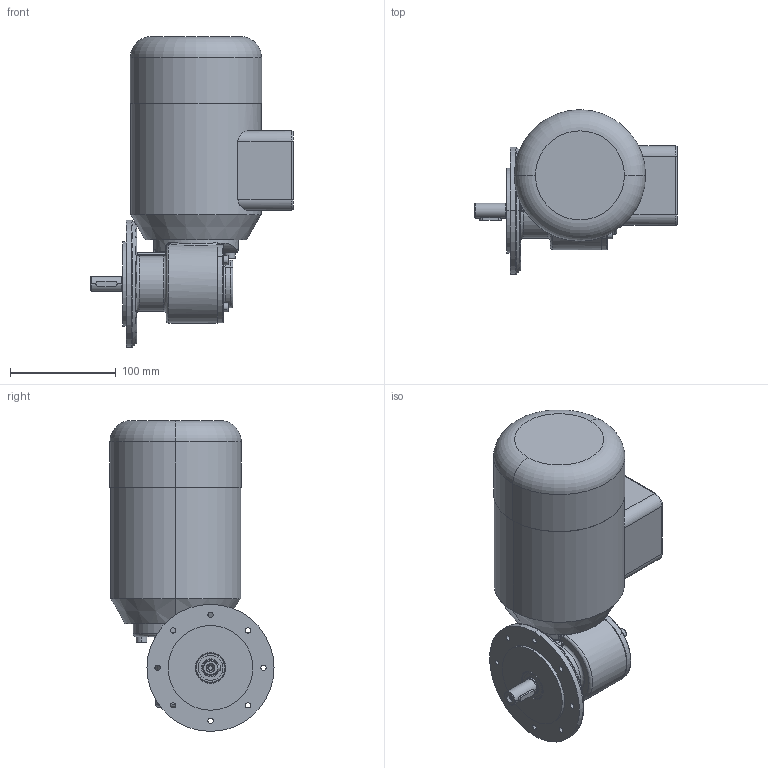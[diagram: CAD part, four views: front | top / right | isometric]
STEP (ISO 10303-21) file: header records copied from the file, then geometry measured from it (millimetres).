
FILE_DESCRIPTION (( 'STEP AP214' ), '1' );
FILE_NAME ('SN3FL_120W_180W_250W_B.STEP', '2021-03-16T11:08:31', ( '' ), ( '' ), 'SwSTEP 2.0', 'SolidWorks 2019', '' );
FILE_SCHEMA (( 'AUTOMOTIVE_DESIGN' ));
Length unit declared in the file: millimetre
Products named in the file (1): SN3FL_120W_180W_250W_B
Bounding box: 191.4 x 155 x 293.5 mm (x, y, z)
Surface area: 162155.9 mm2 (no closed solid volume)
Topology: 0 solids, 17 shells, 263 faces, 727 edges, 454 vertices
Faces by surface type: cylinder 89, plane 86, cone 44, torus 38, bspline 6
Entity records: 11887 total; most frequent: CARTESIAN_POINT 2218, DIRECTION 1531, ORIENTED_EDGE 1262, EDGE_CURVE 713, AXIS2_PLACEMENT_3D 605, VERTEX_POINT 454, CIRCLE 347, LINE 321
